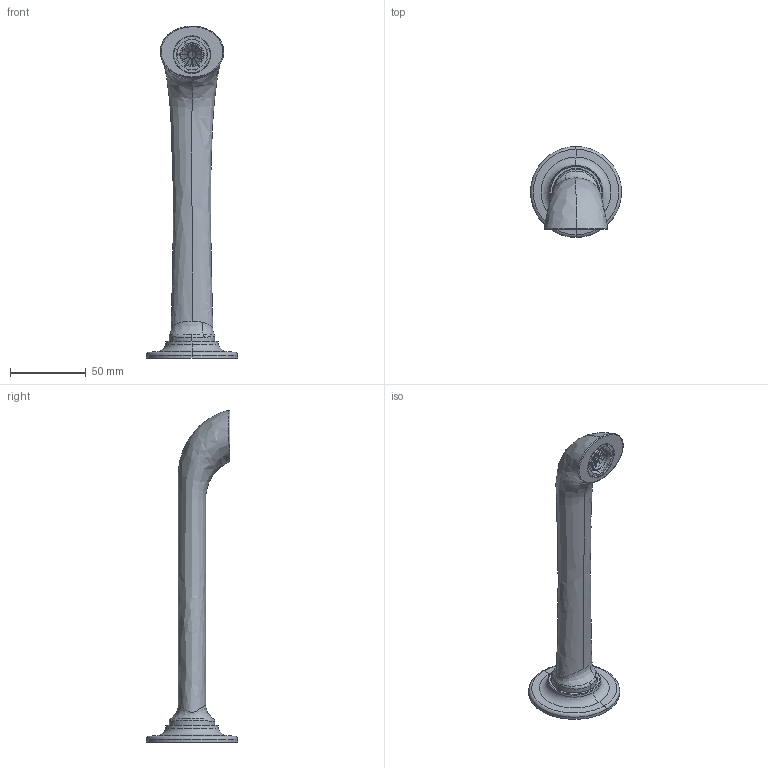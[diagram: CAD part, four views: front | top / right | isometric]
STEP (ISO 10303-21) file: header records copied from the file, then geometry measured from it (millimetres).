
FILE_DESCRIPTION(('FreeCAD Model'),'2;1');
FILE_NAME('Open CASCADE Shape Model','2025-05-29T23:05:45',('Author'),( ''),'Open CASCADE STEP processor 7.8','FreeCAD','Unknown');
FILE_SCHEMA(('AUTOMOTIVE_DESIGN { 1 0 10303 214 1 1 1 1 }'));
Length unit declared in the file: millimetre
Products named in the file (6): 1153021_ASM; 1153021-022_AF0; 1153047-292_AF0; JQ-29X2_AF0; 8027015-402_AF0; DS-M5X5-N
Assembly tree (6 placements, depth 2):
  1153021_ASM
    1153021-022_AF0
    1153047-292_AF0
    JQ-29X2_AF0
    8027015-402_AF0
    DS-M5X5-N  x2
Bounding box: 60 x 60 x 218.8 mm (x, y, z)
Volume: 52324.8 mm3; surface area: 43630.7 mm2
Topology: 6 solids, 6 shells, 344 faces, 883 edges, 553 vertices
Faces by surface type: plane 123, cylinder 100, bspline 58, cone 45, torus 14, sphere 4
Entity records: 18210 total; most frequent: CARTESIAN_POINT 10812, ORIENTED_EDGE 1566, DIRECTION 1448, EDGE_CURVE 783, AXIS2_PLACEMENT_3D 571, VERTEX_POINT 491, FACE_BOUND 348, EDGE_LOOP 348
